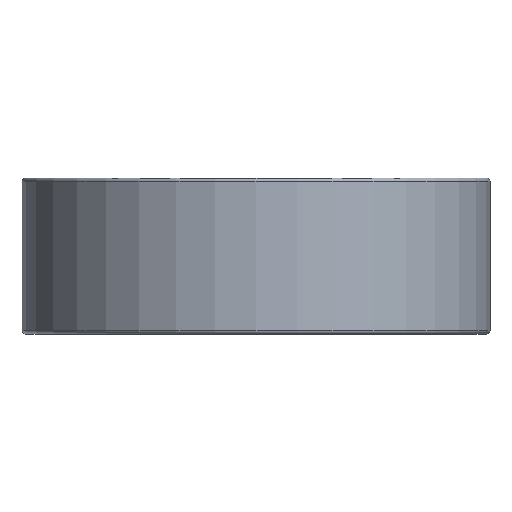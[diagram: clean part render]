
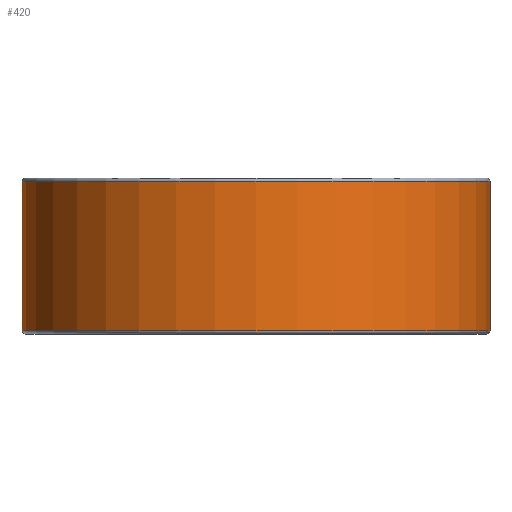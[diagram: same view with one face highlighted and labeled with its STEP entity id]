
A CAD part, front view. The second image highlights one B-rep face of the part: STEP entity #420.
In plain terms, the highlighted cylindrical face has radius 18 mm (diameter 36 mm), a full revolution.
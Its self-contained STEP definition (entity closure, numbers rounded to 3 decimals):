
#420=ADVANCED_FACE('',(#496,#497),#480,.T.);
#480=CYLINDRICAL_SURFACE('',#1119,18.);
#496=FACE_BOUND('',#544,.T.);
#497=FACE_BOUND('',#545,.T.);
#544=EDGE_LOOP('',(#632));
#545=EDGE_LOOP('',(#633));
#632=ORIENTED_EDGE('',*,*,#948,.T.);
#633=ORIENTED_EDGE('',*,*,#949,.T.);
#864=VERTEX_POINT('',#1524);
#865=VERTEX_POINT('',#1526);
#948=EDGE_CURVE('',#864,#864,#1064,.T.);
#949=EDGE_CURVE('',#865,#865,#1065,.T.);
#1064=CIRCLE('',#1117,18.);
#1065=CIRCLE('',#1118,18.);
#1117=AXIS2_PLACEMENT_3D('',#1523,#1232,#1233);
#1118=AXIS2_PLACEMENT_3D('',#1525,#1234,#1235);
#1119=AXIS2_PLACEMENT_3D('',#1527,#1236,#1237);
#1232=DIRECTION('',(0.,0.,1.));
#1233=DIRECTION('',(1.,0.,0.));
#1234=DIRECTION('',(0.,0.,-1.));
#1235=DIRECTION('',(1.,0.,0.));
#1236=DIRECTION('',(0.,0.,-1.));
#1237=DIRECTION('',(-1.,0.,0.));
#1523=CARTESIAN_POINT('',(0.,0.,0.25));
#1524=CARTESIAN_POINT('',(18.,0.,0.25));
#1525=CARTESIAN_POINT('',(0.,0.,11.75));
#1526=CARTESIAN_POINT('',(18.,0.,11.75));
#1527=CARTESIAN_POINT('',(0.,0.,12.));
